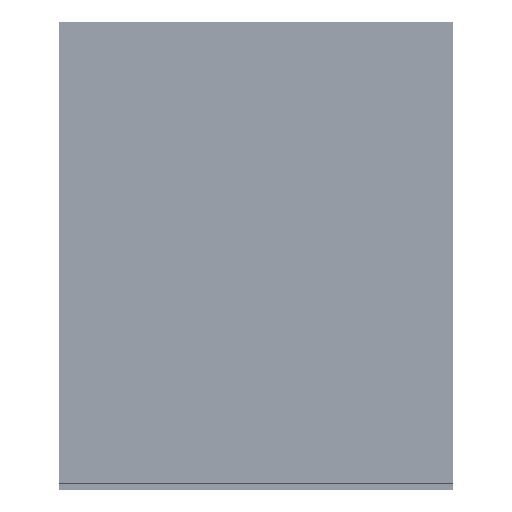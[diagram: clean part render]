
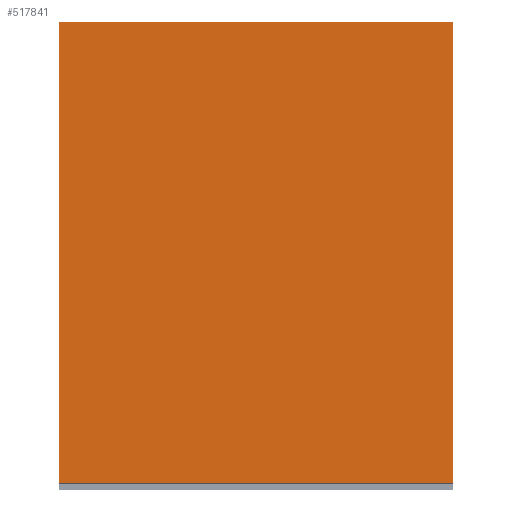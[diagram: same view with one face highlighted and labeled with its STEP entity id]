
A CAD part, left-side view. The second image highlights one B-rep face of the part: STEP entity #517841.
In plain terms, the highlighted planar face has unit normal (-1, 0, 0).
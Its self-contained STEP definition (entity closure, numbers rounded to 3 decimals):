
#517580=CARTESIAN_POINT('',(6129.646,-82.864,582.5));
#517581=VERTEX_POINT('',#517580);
#517588=CARTESIAN_POINT('',(6129.646,-83.071,582.293));
#517589=VERTEX_POINT('',#517588);
#517590=CARTESIAN_POINT('',(6129.646,-82.864,582.5));
#517591=DIRECTION('',(0.0,-0.707,-0.707));
#517592=VECTOR('',#517591,0.293);
#517593=LINE('',#517590,#517592);
#517594=EDGE_CURVE('',#517581,#517589,#517593,.T.);
#517611=CARTESIAN_POINT('',(6129.646,413.722,582.5));
#517612=VERTEX_POINT('',#517611);
#517619=CARTESIAN_POINT('',(6129.646,413.722,582.5));
#517620=DIRECTION('',(0.0,-1.0,0.0));
#517621=VECTOR('',#517620,496.586);
#517622=LINE('',#517619,#517621);
#517623=EDGE_CURVE('',#517612,#517581,#517622,.T.);
#517634=CARTESIAN_POINT('',(6129.646,-83.071,0.707));
#517635=VERTEX_POINT('',#517634);
#517636=CARTESIAN_POINT('',(6129.646,-83.071,582.293));
#517637=DIRECTION('',(0.0,0.0,-1.0));
#517638=VECTOR('',#517637,581.586);
#517639=LINE('',#517636,#517638);
#517640=EDGE_CURVE('',#517589,#517635,#517639,.T.);
#517666=CARTESIAN_POINT('',(6129.646,413.929,582.293));
#517667=VERTEX_POINT('',#517666);
#517674=CARTESIAN_POINT('',(6129.646,413.929,582.293));
#517675=DIRECTION('',(0.0,-0.707,0.707));
#517676=VECTOR('',#517675,0.293);
#517677=LINE('',#517674,#517676);
#517678=EDGE_CURVE('',#517667,#517612,#517677,.T.);
#517689=CARTESIAN_POINT('',(6129.646,-82.864,0.5));
#517690=VERTEX_POINT('',#517689);
#517691=CARTESIAN_POINT('',(6129.646,-83.071,0.707));
#517692=DIRECTION('',(0.0,0.707,-0.707));
#517693=VECTOR('',#517692,0.293);
#517694=LINE('',#517691,#517693);
#517695=EDGE_CURVE('',#517635,#517690,#517694,.T.);
#517721=CARTESIAN_POINT('',(6129.646,413.929,0.707));
#517722=VERTEX_POINT('',#517721);
#517729=CARTESIAN_POINT('',(6129.646,413.929,0.707));
#517730=DIRECTION('',(0.0,0.0,1.0));
#517731=VECTOR('',#517730,581.586);
#517732=LINE('',#517729,#517731);
#517733=EDGE_CURVE('',#517722,#517667,#517732,.T.);
#517744=CARTESIAN_POINT('',(6129.646,413.722,0.5));
#517745=VERTEX_POINT('',#517744);
#517746=CARTESIAN_POINT('',(6129.646,-82.864,0.5));
#517747=DIRECTION('',(0.0,1.0,0.0));
#517748=VECTOR('',#517747,496.586);
#517749=LINE('',#517746,#517748);
#517750=EDGE_CURVE('',#517690,#517745,#517749,.T.);
#517782=CARTESIAN_POINT('',(6129.646,413.722,0.5));
#517783=DIRECTION('',(0.0,0.707,0.707));
#517784=VECTOR('',#517783,0.293);
#517785=LINE('',#517782,#517784);
#517786=EDGE_CURVE('',#517745,#517722,#517785,.T.);
#517826=CARTESIAN_POINT('',(6129.646,414.429,0.));
#517827=DIRECTION('',(-1.0,0.0,0.0));
#517828=DIRECTION('',(0.0,-1.0,0.0));
#517829=AXIS2_PLACEMENT_3D('',#517826,#517827,#517828);
#517830=PLANE('',#517829);
#517831=ORIENTED_EDGE('',*,*,#517594,.F.);
#517832=ORIENTED_EDGE('',*,*,#517623,.F.);
#517833=ORIENTED_EDGE('',*,*,#517678,.F.);
#517834=ORIENTED_EDGE('',*,*,#517733,.F.);
#517835=ORIENTED_EDGE('',*,*,#517786,.F.);
#517836=ORIENTED_EDGE('',*,*,#517750,.F.);
#517837=ORIENTED_EDGE('',*,*,#517695,.F.);
#517838=ORIENTED_EDGE('',*,*,#517640,.F.);
#517839=EDGE_LOOP('',(#517831,#517832,#517833,#517834,#517835,#517836,#517837,#517838));
#517840=FACE_OUTER_BOUND('',#517839,.T.);
#517841=ADVANCED_FACE('',(#517840),#517830,.T.);
